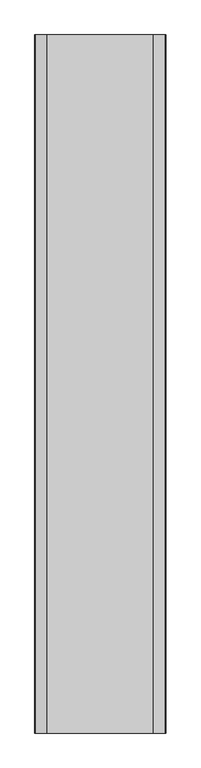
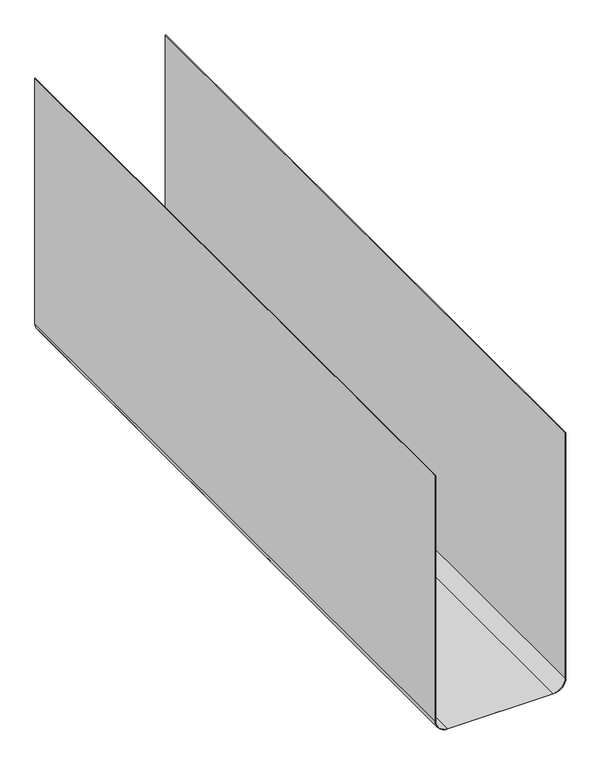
"""IFC4 building model written with IfcOpenShell, lengths in millimetres: proxy geometry, sikawrapElvis : sikawrapElvis2."""

from ifc_helpers import new_model, si_unit, point, frame, frame_2d, origin, place, context, project, spatial, polyline, circle_curve, trimmed, segment, composite_curve, outline, extrude, source, transform, mapped, element, save


def generic_models_06b08add(model_context):
    return source(origin(), model_context, "Body", "SweptSolid", [
        extrude(outline(composite_curve([segment(polyline([(21.6, -112.25), (470.8, -112.25), (470.8, -113.05), (21.6, -113.05)]), True, "CONTINUOUS"), segment(trimmed(circle_curve(frame_2d((21.6, -91.45)), 21.6), [point((21.6, -113.05))], [point((0.0, -91.45))], False, "CARTESIAN"), True, "CONTINUOUS"), segment(polyline([(0.0, -91.45), (0.0, 91.45)]), True, "CONTINUOUS"), segment(trimmed(circle_curve(frame_2d((21.6, 91.45)), 21.6), [point((0.0, 91.45))], [point((21.6, 113.05))], False, "CARTESIAN"), True, "CONTINUOUS"), segment(polyline([(21.6, 113.05), (470.8, 113.05), (470.8, 112.25), (21.6, 112.25)]), True, "CONTINUOUS"), segment(trimmed(circle_curve(frame_2d((21.6, 91.45)), 20.8), [point((21.6, 112.25))], [point((0.8, 91.45))], True, "CARTESIAN"), True, "CONTINUOUS"), segment(polyline([(0.8, 91.45), (0.8, -91.45)]), True, "CONTINUOUS"), segment(trimmed(circle_curve(frame_2d((21.6, -91.45)), 20.8), [point((0.8, -91.45))], [point((21.6, -112.25))], True, "CARTESIAN"), True, "CONTINUOUS")], self_intersect=False)), frame((0.0, -1200.0, 0.0), z_axis=(0.0, 1.0, 0.0), x_axis=(0.0, 0.0, 1.0)), (0.0, 0.0, 1.0), 1200.0),
    ])


if __name__ == "__main__":
    model = new_model("IFC4")
    model_context = context("Model", 3, world=origin())
    ifc_project = project(units=[si_unit("LENGTHUNIT", "METRE", prefix="MILLI")], contexts=[model_context])
    site = spatial("IfcSite", under=ifc_project)
    building = spatial("IfcBuilding", under=site)
    placement = place(None, origin())
    generic_models_shape = generic_models_06b08add(model_context)
    element("IfcBuildingElementProxy", 1, Name="sikawrapElvis : sikawrapElvis2", ObjectType="sikawrapElvis : sikawrapElvis2", at=placement, inside=building, context=model_context, shape_type="MappedRepresentation", body=[
        mapped(generic_models_shape, transform((0.0, 0.0, 0.0), x_axis=(1.0, 0.0, 0.0), y_axis=(0.0, 1.0, 0.0), z_axis=(0.0, 0.0, 1.0))),
    ])
    save(model, "model.ifc")
